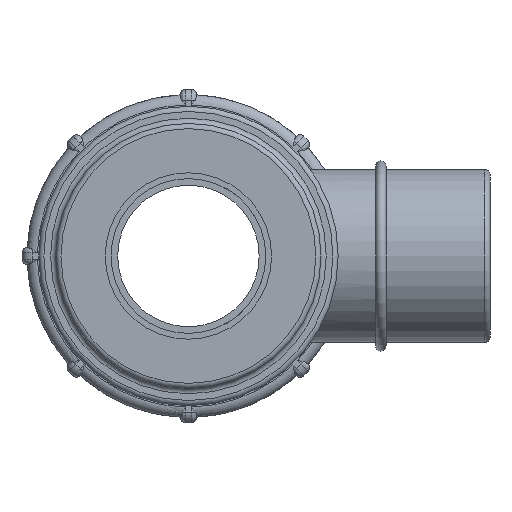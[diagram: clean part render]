
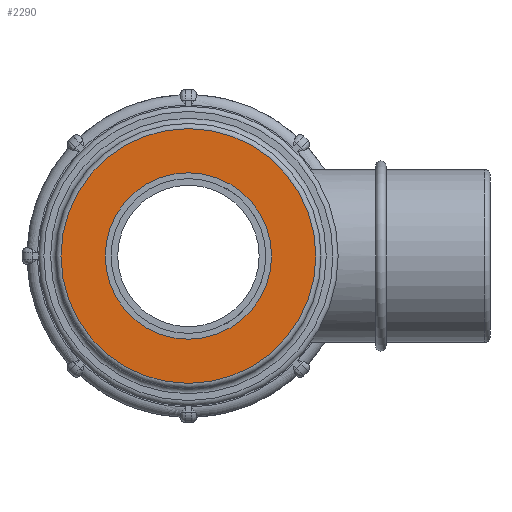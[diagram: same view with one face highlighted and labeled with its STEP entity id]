
A CAD part, left-side view. The second image highlights one B-rep face of the part: STEP entity #2290.
In plain terms, the highlighted planar face has unit normal (-1, 0, 0).
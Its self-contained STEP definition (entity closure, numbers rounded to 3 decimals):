
#255=PLANE('',#2459);
#381=FACE_BOUND('',#599,.T.);
#432=FACE_OUTER_BOUND('',#598,.T.);
#598=EDGE_LOOP('',(#1560));
#599=EDGE_LOOP('',(#1561));
#807=CIRCLE('',#2455,24.5);
#810=CIRCLE('',#2460,16.);
#992=VERTEX_POINT('',#3565);
#995=VERTEX_POINT('',#3573);
#1218=EDGE_CURVE('',#992,#992,#807,.T.);
#1221=EDGE_CURVE('',#995,#995,#810,.T.);
#1560=ORIENTED_EDGE('',*,*,#1218,.F.);
#1561=ORIENTED_EDGE('',*,*,#1221,.T.);
#2290=ADVANCED_FACE('',(#432,#381),#255,.T.);
#2455=AXIS2_PLACEMENT_3D('',#3566,#2775,#2776);
#2459=AXIS2_PLACEMENT_3D('',#3572,#2783,#2784);
#2460=AXIS2_PLACEMENT_3D('',#3574,#2785,#2786);
#2775=DIRECTION('center_axis',(1.,0.,0.));
#2776=DIRECTION('ref_axis',(0.,-1.,0.));
#2783=DIRECTION('center_axis',(-1.,0.,0.));
#2784=DIRECTION('ref_axis',(0.,0.,1.));
#2785=DIRECTION('center_axis',(1.,0.,0.));
#2786=DIRECTION('ref_axis',(0.,0.,-1.));
#3565=CARTESIAN_POINT('',(-62.725,24.5,0.));
#3566=CARTESIAN_POINT('Origin',(-62.725,0.,0.));
#3572=CARTESIAN_POINT('Origin',(-62.725,25.5,0.));
#3573=CARTESIAN_POINT('',(-62.725,16.,0.));
#3574=CARTESIAN_POINT('Origin',(-62.725,0.,0.));
